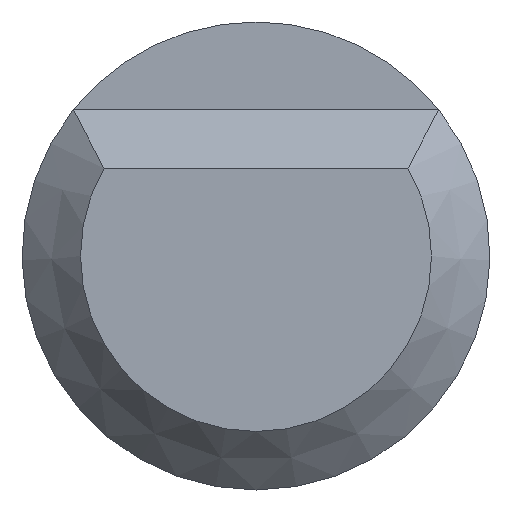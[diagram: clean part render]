
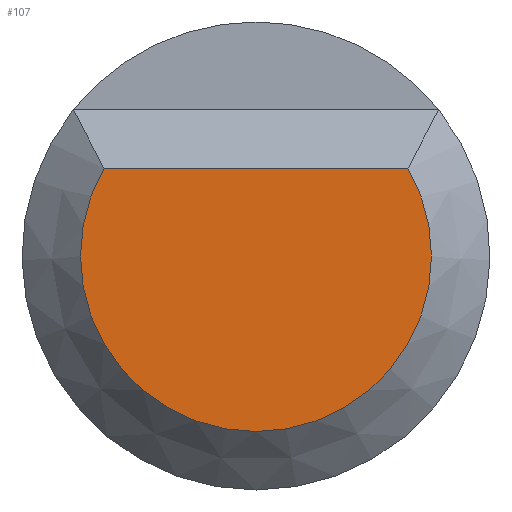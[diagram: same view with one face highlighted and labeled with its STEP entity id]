
A CAD part, front view. The second image highlights one B-rep face of the part: STEP entity #107.
In plain terms, the highlighted planar face has unit normal (0, -1, 0).
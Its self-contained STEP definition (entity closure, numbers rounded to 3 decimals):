
#21 = ORIENTED_EDGE ( 'NONE', *, *, #44, .T. ) ;
#32 = DIRECTION ( 'NONE',  ( 0., 0., 1. ) ) ;
#44 = EDGE_CURVE ( 'NONE', #403, #380, #272, .T. ) ;
#107 = ADVANCED_FACE ( 'NONE', ( #298 ), #303, .F. ) ;
#151 = CIRCLE ( 'NONE', #351, 0.3 ) ;
#154 = DIRECTION ( 'NONE',  ( 0., 1., 0. ) ) ;
#167 = ORIENTED_EDGE ( 'NONE', *, *, #254, .T. ) ;
#175 = CARTESIAN_POINT ( 'NONE',  ( -0.312, 0., 0.15 ) ) ;
#220 = DIRECTION ( 'NONE',  ( 0., -1., 0. ) ) ;
#224 = DIRECTION ( 'NONE',  ( 0., 0., 1. ) ) ;
#228 = CARTESIAN_POINT ( 'NONE',  ( 0.26, 0., 0.15 ) ) ;
#235 = DIRECTION ( 'NONE',  ( -1., 0., 0. ) ) ;
#243 = CARTESIAN_POINT ( 'NONE',  ( 0., 0., 0. ) ) ;
#245 = AXIS2_PLACEMENT_3D ( 'NONE', #243, #154, #32 ) ;
#254 = EDGE_CURVE ( 'NONE', #380, #403, #151, .T. ) ;
#262 = VECTOR ( 'NONE', #235, 1000. ) ;
#263 = EDGE_LOOP ( 'NONE', ( #167, #21 ) ) ;
#272 = LINE ( 'NONE', #175, #262 ) ;
#298 = FACE_OUTER_BOUND ( 'NONE', #263, .T. ) ;
#303 = PLANE ( 'NONE',  #245 ) ;
#310 = CARTESIAN_POINT ( 'NONE',  ( 0., 0., 0. ) ) ;
#351 = AXIS2_PLACEMENT_3D ( 'NONE', #310, #220, #224 ) ;
#380 = VERTEX_POINT ( 'NONE', #387 ) ;
#387 = CARTESIAN_POINT ( 'NONE',  ( -0.26, 0., 0.15 ) ) ;
#403 = VERTEX_POINT ( 'NONE', #228 ) ;
